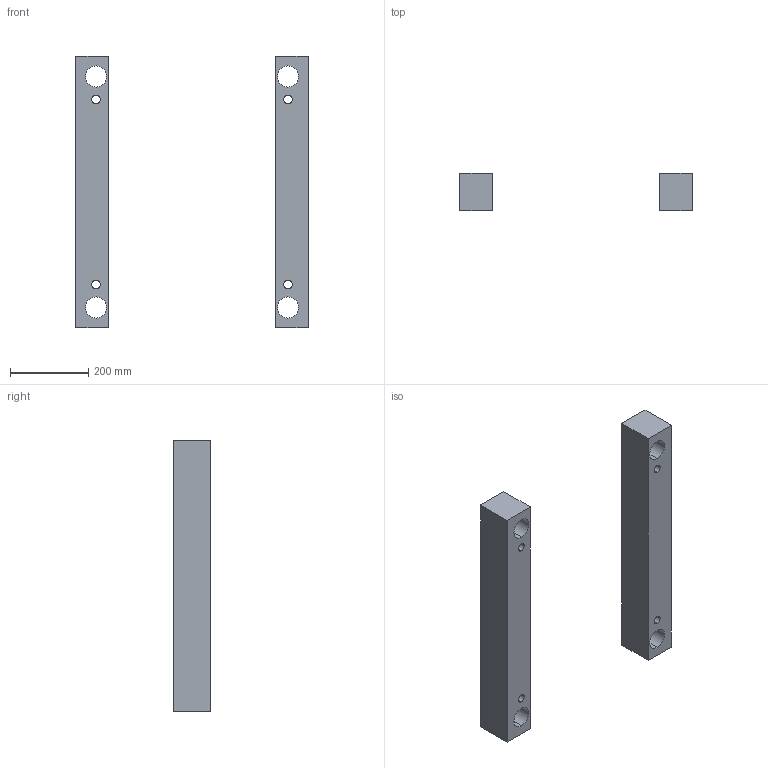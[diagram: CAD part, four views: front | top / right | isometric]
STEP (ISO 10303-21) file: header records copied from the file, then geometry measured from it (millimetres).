
FILE_DESCRIPTION (( 'STEP AP214' ), '1' );
FILE_NAME ('L50_596x696x096.STEP', '2018-10-05T18:59:24', ( '' ), ( '' ), 'SwSTEP 2.0', 'SolidWorks 2014', '' );
FILE_SCHEMA (( 'AUTOMOTIVE_DESIGN' ));
Length unit declared in the file: millimetre
Products named in the file (1): L50_596x696x096
Bounding box: 596 x 96 x 696 mm (x, y, z)
Volume: 10199672.2 mm3; surface area: 603697.4 mm2
Topology: 2 solids, 2 shells, 28 faces, 72 edges, 48 vertices
Faces by surface type: cylinder 16, plane 12
Entity records: 943 total; most frequent: DIRECTION 162, CARTESIAN_POINT 149, ORIENTED_EDGE 144, EDGE_CURVE 72, AXIS2_PLACEMENT_3D 61, VERTEX_POINT 48, EDGE_LOOP 44, LINE 40
